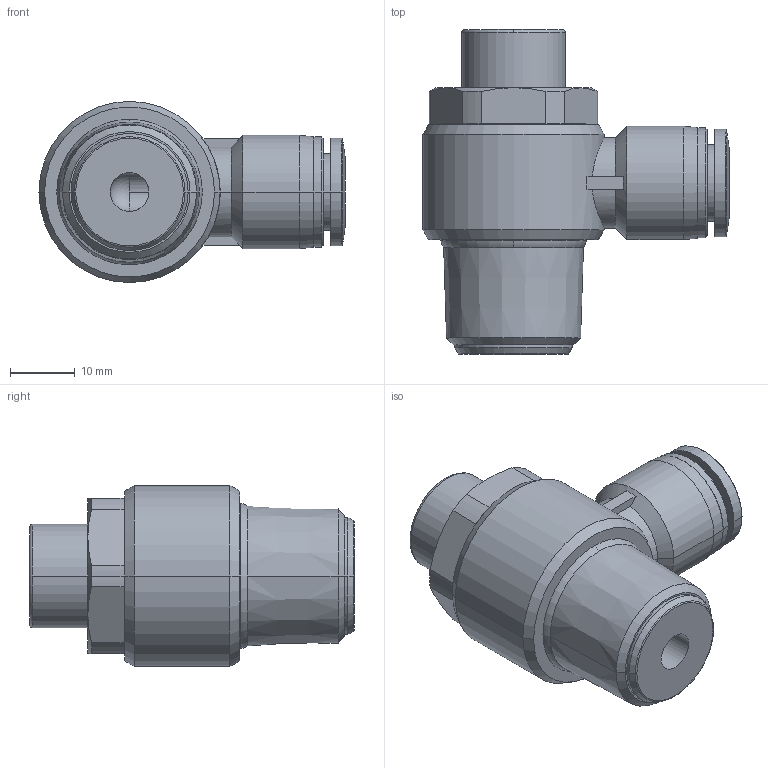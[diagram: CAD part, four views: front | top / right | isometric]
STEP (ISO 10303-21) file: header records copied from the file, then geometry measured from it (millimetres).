
FILE_DESCRIPTION (( 'STEP AP203' ), '1' );
FILE_NAME ('SCLF10-04.STEP', '2020-05-13T17:33:04', ( '' ), ( '' ), 'SwSTEP 2.0', 'SolidWorks 2019', '' );
FILE_SCHEMA (( 'CONFIG_CONTROL_DESIGN' ));
Length unit declared in the file: millimetre
Products named in the file (1): SCLF10-04
Bounding box: 47.3 x 50.2 x 28 mm (x, y, z)
Volume: 22438.5 mm3; surface area: 8084.6 mm2
Topology: 1 solids, 1 shells, 137 faces, 330 edges, 203 vertices
Faces by surface type: plane 51, cylinder 43, cone 32, torus 8, bspline 2, sphere 1
Entity records: 4233 total; most frequent: CARTESIAN_POINT 932, DIRECTION 730, ORIENTED_EDGE 654, EDGE_CURVE 327, AXIS2_PLACEMENT_3D 297, VERTEX_POINT 203, CIRCLE 161, EDGE_LOOP 150
